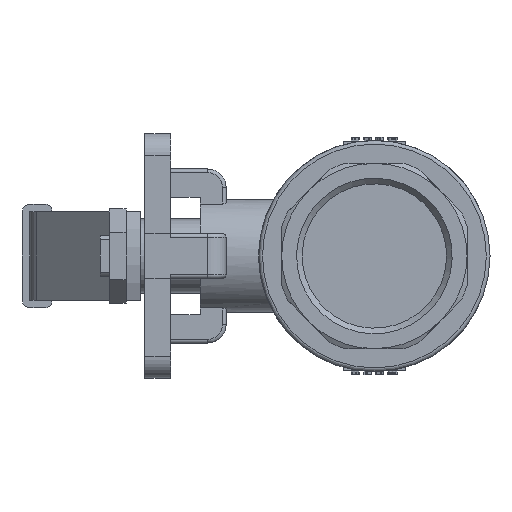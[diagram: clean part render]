
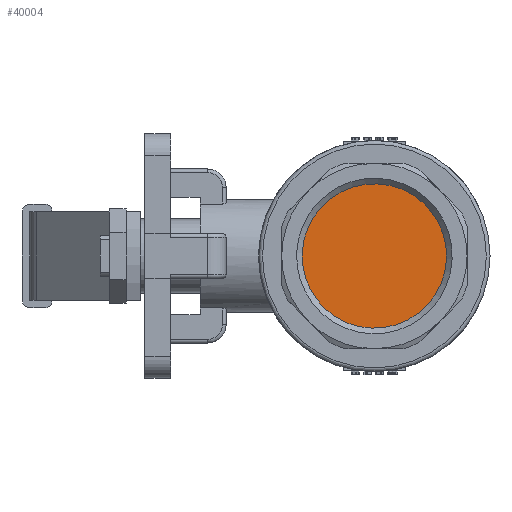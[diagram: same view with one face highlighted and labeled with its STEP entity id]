
A CAD part, left-side view. The second image highlights one B-rep face of the part: STEP entity #40004.
In plain terms, the highlighted planar face has unit normal (-1, 0, 0).
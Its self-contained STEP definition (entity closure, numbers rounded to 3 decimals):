
#39984=CARTESIAN_POINT('',(-26.0,-7.453,17.993));
#39985=VERTEX_POINT('',#39984);
#39986=CARTESIAN_POINT('',(-26.0,0.,0.0));
#39987=DIRECTION('',(-1.0,0.0,0.0));
#39988=DIRECTION('',(0.0,-0.383,0.924));
#39989=AXIS2_PLACEMENT_3D('',#39986,#39987,#39988);
#39990=CIRCLE('',#39989,19.476);
#39991=EDGE_CURVE('',#39985,#39985,#39990,.T.);
#39996=CARTESIAN_POINT('',(-26.0,0.,0.0));
#39997=DIRECTION('',(-1.0,0.0,0.0));
#39998=DIRECTION('',(0.0,0.0,1.0));
#39999=AXIS2_PLACEMENT_3D('',#39996,#39997,#39998);
#40000=PLANE('',#39999);
#40001=ORIENTED_EDGE('',*,*,#39991,.T.);
#40002=EDGE_LOOP('',(#40001));
#40003=FACE_OUTER_BOUND('',#40002,.T.);
#40004=ADVANCED_FACE('',(#40003),#40000,.T.);
